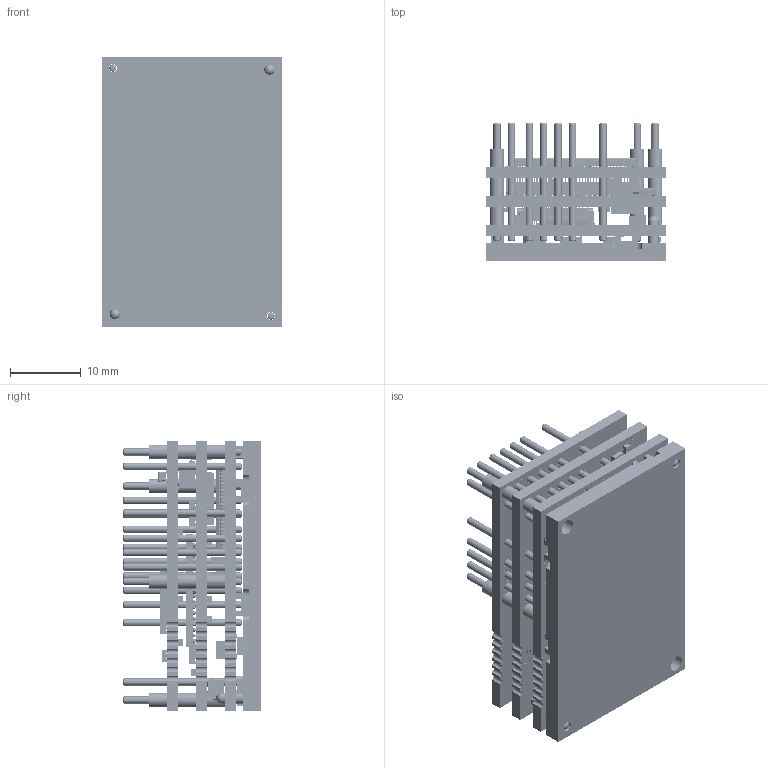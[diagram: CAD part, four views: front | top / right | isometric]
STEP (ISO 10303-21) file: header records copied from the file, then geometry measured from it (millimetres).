
FILE_DESCRIPTION (( 'STEP AP214' ), '1' );
FILE_NAME ('FXE060-25-EMAx.STEP', '2020-02-24T17:25:58', ( 'AMC' ), ( 'Advanced Motion Controls' ), 'SwSTEP 2.0', 'SolidWorks 2010', '' );
FILE_SCHEMA (( 'AUTOMOTIVE_DESIGN' ));
Products named in the file (1): FXE060-25-EMAx
Bounding box: 25.4 x 19.5 x 38.1 mm (x, y, z)
Volume: 7695 mm3; surface area: 13792.9 mm2
Topology: 137 solids, 137 shells, 22361 faces, 56076 edges, 37315 vertices
Faces by surface type: plane 19271, cylinder 2668, sphere 341, torus 52, bspline 29
Full cylindrical faces by diameter (mm): 0.2 x6, 0.225 x24, 0.25 x24, 0.26 x6, 0.275 x48, 0.3 x1, 0.305 x4, 0.31 x1, 0.356 x337, 0.5 x2, 0.635 x1, 0.7 x2, 0.9 x1, 1.024 x26, 1.118 x26, 1.194 x52, 1.27 x24, 1.435 x2, 1.524 x2, 1.702 x2, 2.032 x12, 2.261 x2, 2.286 x2, 3.048 x2
Entity records: 650569 total; most frequent: CARTESIAN_POINT 116709, ORIENTED_EDGE 108666, DIRECTION 103591, EDGE_CURVE 54333, LINE 48035, VECTOR 48035, VERTEX_POINT 36582, AXIS2_PLACEMENT_3D 27778
